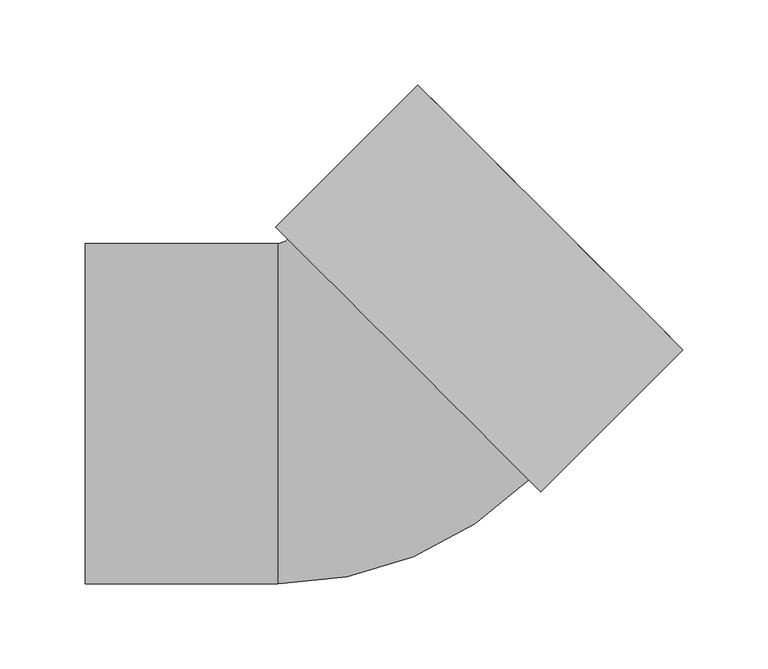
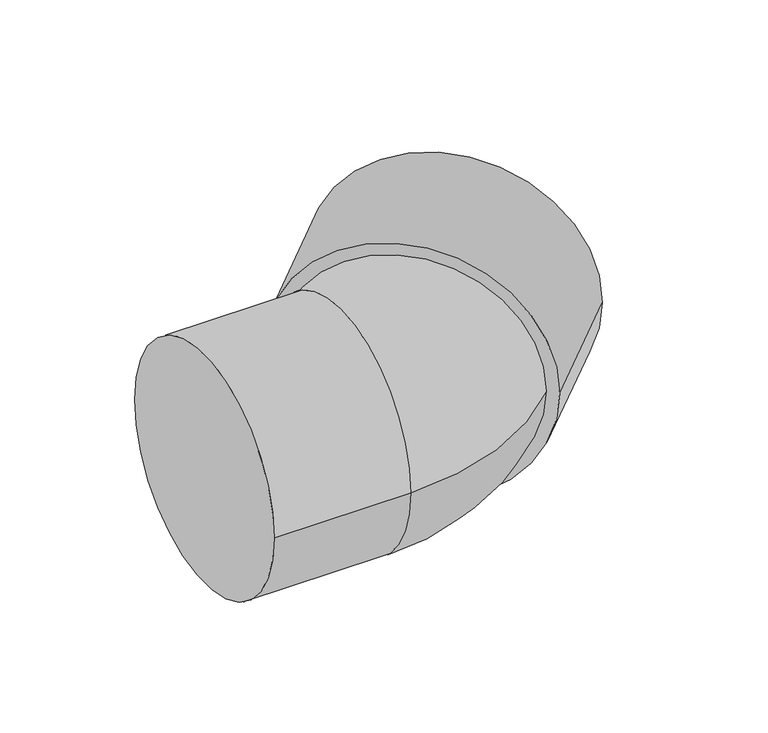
"""IFC4 building model written with IfcOpenShell, lengths in millimetres: pipe fitting geometry, Pipelife - Pragma OD - Kolano kanalizacyjne : Pipelife - Pragma OD - Kolano kanalizacyjne."""

from ifc_helpers import new_model, si_unit, point, frame, origin, place, context, project, spatial, polyline, circle_curve, ellipse_curve, trimmed, source, transform, mapped, element, save
from ifc_brep_helpers import plane_surface, cylinder_surface, revolved_surface, advanced_brep


def pipe_fitting_cc6bbe59(model_context):
    return source(origin(), model_context, "Body", "AdvancedBrep", [
        advanced_brep(
        [(-158.0, -100.0, 0.0), (-158.0, 100.0, 0.0), (-45.0, -100.0, 0.0), (-45.0, 100.0, 0.0), (102.5304833, -38.890873, 0.0), (-38.890873, 102.5304833, 0.0)],
        [
            (0, 1, circle_curve(frame((-158.0, 0.0, 0.0), z_axis=(-1.0, 0.0, 0.0), x_axis=(0.0, 1.0, 0.0)), 100.0)),
            (1, 0, circle_curve(frame((-158.0, 0.0, 0.0), z_axis=(-1.0, 0.0, 0.0), x_axis=(0.0, 1.0, 0.0)), 100.0)),
            (0, 2),
            (2, 3, circle_curve(frame((-45.0, 0.0, 0.0), z_axis=(-1.0, 0.0, 0.0), x_axis=(0.0, 1.0, 0.0)), 100.0)),
            (3, 1),
            (3, 2, circle_curve(frame((-45.0, 0.0, 0.0), z_axis=(-1.0, 0.0, 0.0), x_axis=(0.0, 1.0, 0.0)), 100.0)),
            (4, 5, circle_curve(frame((31.8198052, 31.8198052, 0.0), z_axis=(0.7071067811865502, 0.7071067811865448, 0.0), x_axis=(-0.7071067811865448, 0.7071067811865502, 0.0)), 100.0)),
            (5, 4, circle_curve(frame((31.8198052, 31.8198052, 0.0), z_axis=(0.7071067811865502, 0.7071067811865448, 0.0), x_axis=(-0.7071067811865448, 0.7071067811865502, 0.0)), 100.0)),
            (5, 3, circle_curve(frame((-45.0, 108.6396103, 0.0), z_axis=(0.0, 0.0, -1.0), x_axis=(0.0, -1.0, 0.0)), 8.6396103)),
            (2, 4, circle_curve(frame((-45.0, 108.6396103, 0.0), z_axis=(0.0, 0.0, 1.0), x_axis=(0.0, -1.0, 0.0)), 208.6396103)),
        ],
        [
            plane_surface(frame((-158.0, 0.0, 0.0), z_axis=(-1.0, 0.0, 0.0), x_axis=(0.0, 0.0, 1.0))),
            cylinder_surface(frame((-158.0, 0.0, 0.0), z_axis=(-1.0, 0.0, 0.0), x_axis=(0.0, 1.0, 0.0)), 100.0),
            plane_surface(frame((31.8198052, 31.8198052, 0.0), z_axis=(0.7071067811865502, 0.7071067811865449, 0.0), x_axis=(0.0, 0.0, 1.0))),
            revolved_surface(trimmed(ellipse_curve(frame((-45.0, 0.0, 0.0), z_axis=(-1.0, 0.0, 0.0), x_axis=(0.0, 1.0, 0.0)), 100.0, 100.0), [point((-45.0, -100.0, 0.0))], [point((-45.0, 100.0, 0.0))], True, "CARTESIAN"), (-45.0, 108.6396103, 0.0), (0.0, 0.0, 1.0)),
            revolved_surface(trimmed(ellipse_curve(frame((-45.0, 0.0, 0.0), z_axis=(-1.0, 0.0, 0.0), x_axis=(0.0, 1.0, 0.0)), 100.0, 100.0), [point((-45.0, 100.0, 0.0))], [point((-45.0, -100.0, 0.0))], True, "CARTESIAN"), (-45.0, 108.6396103, 0.0), (0.0, 0.0, 1.0)),
        ],
        [
            (0, [[1, 2]]),
            (1, [[-1, 3, 4, 5]]),
            (1, [[-2, -5, 6, -3]]),
            (2, [[7, 8]]),
            (3, [[-8, 9, -4, 10]]),
            (4, [[-7, -10, -6, -9]]),
        ],
    ),
        advanced_brep(
        [(37.4766594, 193.0401513, 0.0), (193.0401513, 37.4766594, 0.0), (186.3226368, 44.1941738, 0.0), (44.1941738, 186.3226368, 0.0), (-45.9619408, 109.6015511, 0.0), (109.6015511, -45.9619408, 0.0), (106.4195706, -35.7088924, 0.0), (-35.7088924, 106.4195706, 0.0)],
        [
            (0, 1, circle_curve(frame((115.2584053, 115.2584053, 0.0), z_axis=(0.7071067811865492, 0.7071067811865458, 0.0), x_axis=(0.7071067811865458, -0.7071067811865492, 0.0)), 110.0)),
            (1, 0, circle_curve(frame((115.2584053, 115.2584053, 0.0), z_axis=(0.7071067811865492, 0.7071067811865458, 0.0), x_axis=(0.7071067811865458, -0.7071067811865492, 0.0)), 110.0)),
            (2, 3, circle_curve(frame((115.2584053, 115.2584053, 0.0), z_axis=(-0.7071067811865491, -0.7071067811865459, 0.0), x_axis=(-0.7071067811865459, 0.7071067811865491, 0.0)), 100.5)),
            (3, 2, circle_curve(frame((115.2584053, 115.2584053, 0.0), z_axis=(-0.7071067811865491, -0.7071067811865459, 0.0), x_axis=(-0.7071067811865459, 0.7071067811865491, 0.0)), 100.5)),
            (4, 5, circle_curve(frame((31.8198052, 31.8198052, 0.0), z_axis=(-0.7071067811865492, -0.7071067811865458, 0.0), x_axis=(0.7071067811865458, -0.7071067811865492, 0.0)), 110.0)),
            (5, 4, circle_curve(frame((31.8198052, 31.8198052, 0.0), z_axis=(-0.7071067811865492, -0.7071067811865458, 0.0), x_axis=(0.7071067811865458, -0.7071067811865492, 0.0)), 110.0)),
            (1, 5),
            (4, 0),
            (6, 7, circle_curve(frame((35.3553391, 35.3553391, 0.0), z_axis=(0.7071067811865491, 0.7071067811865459, 0.0), x_axis=(-0.7071067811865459, 0.7071067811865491, 0.0)), 100.5)),
            (7, 6, circle_curve(frame((35.3553391, 35.3553391, 0.0), z_axis=(0.7071067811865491, 0.7071067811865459, 0.0), x_axis=(-0.7071067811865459, 0.7071067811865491, 0.0)), 100.5)),
            (7, 3),
            (2, 6),
        ],
        [
            plane_surface(frame((115.2584053, 115.2584053, 0.0), z_axis=(0.7071067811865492, 0.7071067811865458, 0.0), x_axis=(0.0, 0.0, 1.0))),
            plane_surface(frame((31.8198052, 31.8198052, 0.0), z_axis=(-0.7071067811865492, -0.7071067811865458, 0.0), x_axis=(0.0, 0.0, 1.0))),
            cylinder_surface(frame((115.2584053, 115.2584053, 0.0), z_axis=(0.7071067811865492, 0.7071067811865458, 0.0), x_axis=(0.7071067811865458, -0.7071067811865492, 0.0)), 110.0),
            plane_surface(frame((35.3553391, 35.3553391, 0.0), z_axis=(0.7071067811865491, 0.7071067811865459, 0.0), x_axis=(0.0, 0.0, 1.0))),
            revolved_surface(polyline([(-35.70889240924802, 106.41957060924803, 0.0), (44.19417379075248, 186.32263680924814, 0.0)]), (35.3553391, 35.3553391, 0.0), (-0.7071067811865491, -0.7071067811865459, 0.0)),
        ],
        [
            (0, [[1, 2], [3, 4]]),
            (1, [[5, 6]]),
            (2, [[-2, 7, -5, 8]]),
            (2, [[-1, -8, -6, -7]]),
            (3, [[9, 10]]),
            (4, [[-10, 11, -3, 12]]),
            (4, [[-9, -12, -4, -11]]),
        ],
    ),
    ])


if __name__ == "__main__":
    model = new_model("IFC4")
    model_context = context("Model", 3, world=origin())
    ifc_project = project(units=[si_unit("LENGTHUNIT", "METRE", prefix="MILLI")], contexts=[model_context])
    site = spatial("IfcSite", under=ifc_project)
    building = spatial("IfcBuilding", under=site)
    placement = place(None, origin())
    pipe_fitting_shape = pipe_fitting_cc6bbe59(model_context)
    element("IfcPipeFitting", 1, ObjectType="Pipelife - Pragma OD - Kolano kanalizacyjne : Pipelife - Pragma OD - Kolano kanalizacyjne", at=placement, inside=building, context=model_context, shape_type="MappedRepresentation", body=[
        mapped(pipe_fitting_shape, transform((0.0, 0.0, 0.0), x_axis=(1.0, 0.0, 0.0), y_axis=(0.0, 1.0, 0.0), z_axis=(0.0, 0.0, 1.0))),
    ])
    save(model, "model.ifc")
